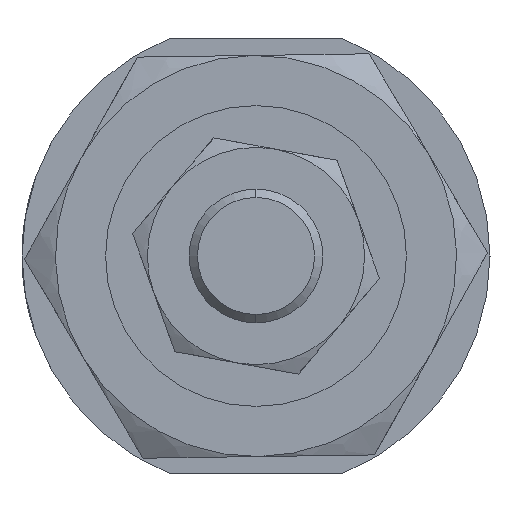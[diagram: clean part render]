
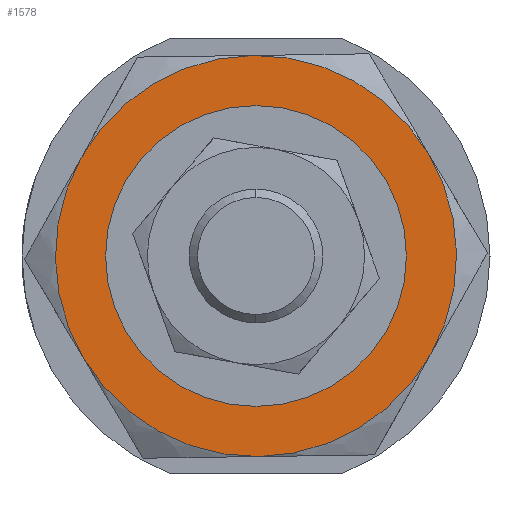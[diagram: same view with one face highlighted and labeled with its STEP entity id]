
A CAD part, left-side view. The second image highlights one B-rep face of the part: STEP entity #1578.
In plain terms, the highlighted planar face has unit normal (-1, 0, 0) as drawn and (0, 0, -1) by its records, which use the part's own axes.
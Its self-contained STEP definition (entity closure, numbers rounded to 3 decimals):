
#10 = FACE_OUTER_BOUND ( 'NONE', #3237, .T. ) ;
#37 = ORIENTED_EDGE ( 'NONE', *, *, #2708, .F. ) ;
#50 = DIRECTION ( 'NONE',  ( 1., 0., 0. ) ) ;
#131 = EDGE_CURVE ( 'NONE', #419, #2693, #2277, .T. ) ;
#152 = CARTESIAN_POINT ( 'NONE',  ( 0., 0., -4. ) ) ;
#200 = DIRECTION ( 'NONE',  ( 1., 0., 0. ) ) ;
#224 = EDGE_CURVE ( 'NONE', #1612, #716, #2878, .T. ) ;
#243 = CARTESIAN_POINT ( 'NONE',  ( 0., 0., -4. ) ) ;
#299 = EDGE_CURVE ( 'NONE', #1617, #2900, #1297, .T. ) ;
#334 = ORIENTED_EDGE ( 'NONE', *, *, #224, .T. ) ;
#335 = AXIS2_PLACEMENT_3D ( 'NONE', #494, #3038, #1633 ) ;
#419 = VERTEX_POINT ( 'NONE', #3204 ) ;
#494 = CARTESIAN_POINT ( 'NONE',  ( 0., 0., -4. ) ) ;
#574 = CIRCLE ( 'NONE', #1946, 12. ) ;
#578 = DIRECTION ( 'NONE',  ( 1., 0., 0. ) ) ;
#586 = CARTESIAN_POINT ( 'NONE',  ( -6., -10.392, -4. ) ) ;
#640 = ORIENTED_EDGE ( 'NONE', *, *, #2020, .F. ) ;
#680 = DIRECTION ( 'NONE',  ( 1., 0., 0. ) ) ;
#716 = VERTEX_POINT ( 'NONE', #1319 ) ;
#735 = DIRECTION ( 'NONE',  ( 1., 0., 0. ) ) ;
#810 = VERTEX_POINT ( 'NONE', #3067 ) ;
#816 = AXIS2_PLACEMENT_3D ( 'NONE', #2617, #1189, #3047 ) ;
#893 = CIRCLE ( 'NONE', #2601, 8.25 ) ;
#927 = CIRCLE ( 'NONE', #335, 12. ) ;
#976 = ORIENTED_EDGE ( 'NONE', *, *, #2985, .F. ) ;
#1171 = EDGE_LOOP ( 'NONE', ( #334, #2130 ) ) ;
#1189 = DIRECTION ( 'NONE',  ( 0., 0., 1. ) ) ;
#1200 = DIRECTION ( 'NONE',  ( 1., 0., 0. ) ) ;
#1202 = DIRECTION ( 'NONE',  ( 0., 0., 1. ) ) ;
#1297 = CIRCLE ( 'NONE', #2488, 12. ) ;
#1313 = CARTESIAN_POINT ( 'NONE',  ( 0., 0., -4. ) ) ;
#1319 = CARTESIAN_POINT ( 'NONE',  ( -8.25, 0., -4. ) ) ;
#1332 = CARTESIAN_POINT ( 'NONE',  ( -12., 0., -4. ) ) ;
#1350 = CARTESIAN_POINT ( 'NONE',  ( 12., 0., -4. ) ) ;
#1390 = DIRECTION ( 'NONE',  ( 0., 0., 1. ) ) ;
#1427 = CIRCLE ( 'NONE', #816, 12. ) ;
#1446 = EDGE_CURVE ( 'NONE', #2900, #810, #574, .T. ) ;
#1496 = PLANE ( 'NONE',  #2934 ) ;
#1547 = FACE_BOUND ( 'NONE', #1171, .T. ) ;
#1578 = ADVANCED_FACE ( 'NONE', ( #1547, #10 ), #1496, .F. ) ;
#1612 = VERTEX_POINT ( 'NONE', #2524 ) ;
#1617 = VERTEX_POINT ( 'NONE', #1332 ) ;
#1633 = DIRECTION ( 'NONE',  ( 1., 0., 0. ) ) ;
#1656 = CARTESIAN_POINT ( 'NONE',  ( 0., 0., -4. ) ) ;
#1678 = CIRCLE ( 'NONE', #1989, 12. ) ;
#1753 = CARTESIAN_POINT ( 'NONE',  ( 0., 0., -4. ) ) ;
#1911 = CARTESIAN_POINT ( 'NONE',  ( 0., 0., -4. ) ) ;
#1916 = AXIS2_PLACEMENT_3D ( 'NONE', #243, #2041, #50 ) ;
#1946 = AXIS2_PLACEMENT_3D ( 'NONE', #1313, #2850, #680 ) ;
#1989 = AXIS2_PLACEMENT_3D ( 'NONE', #152, #2104, #1200 ) ;
#1992 = DIRECTION ( 'NONE',  ( 0., 0., 1. ) ) ;
#2020 = EDGE_CURVE ( 'NONE', #2670, #419, #927, .T. ) ;
#2041 = DIRECTION ( 'NONE',  ( 0., 0., 1. ) ) ;
#2104 = DIRECTION ( 'NONE',  ( 0., 0., 1. ) ) ;
#2130 = ORIENTED_EDGE ( 'NONE', *, *, #3116, .T. ) ;
#2194 = CARTESIAN_POINT ( 'NONE',  ( 0., 0., -4. ) ) ;
#2277 = CIRCLE ( 'NONE', #1916, 12. ) ;
#2488 = AXIS2_PLACEMENT_3D ( 'NONE', #2194, #1202, #2509 ) ;
#2509 = DIRECTION ( 'NONE',  ( 1., 0., 0. ) ) ;
#2524 = CARTESIAN_POINT ( 'NONE',  ( 8.25, 0., -4. ) ) ;
#2601 = AXIS2_PLACEMENT_3D ( 'NONE', #1753, #1992, #578 ) ;
#2613 = CARTESIAN_POINT ( 'NONE',  ( -6., 10.392, -4. ) ) ;
#2617 = CARTESIAN_POINT ( 'NONE',  ( 0., 0., -4. ) ) ;
#2670 = VERTEX_POINT ( 'NONE', #1350 ) ;
#2693 = VERTEX_POINT ( 'NONE', #2613 ) ;
#2708 = EDGE_CURVE ( 'NONE', #810, #2670, #1427, .T. ) ;
#2741 = DIRECTION ( 'NONE',  ( 0., 0., 1. ) ) ;
#2817 = ORIENTED_EDGE ( 'NONE', *, *, #131, .F. ) ;
#2850 = DIRECTION ( 'NONE',  ( 0., 0., 1. ) ) ;
#2878 = CIRCLE ( 'NONE', #3080, 8.25 ) ;
#2900 = VERTEX_POINT ( 'NONE', #586 ) ;
#2908 = ORIENTED_EDGE ( 'NONE', *, *, #299, .F. ) ;
#2934 = AXIS2_PLACEMENT_3D ( 'NONE', #1911, #1390, #735 ) ;
#2985 = EDGE_CURVE ( 'NONE', #2693, #1617, #1678, .T. ) ;
#3038 = DIRECTION ( 'NONE',  ( 0., 0., 1. ) ) ;
#3047 = DIRECTION ( 'NONE',  ( 1., 0., 0. ) ) ;
#3067 = CARTESIAN_POINT ( 'NONE',  ( 6., -10.392, -4. ) ) ;
#3080 = AXIS2_PLACEMENT_3D ( 'NONE', #1656, #2741, #200 ) ;
#3091 = ORIENTED_EDGE ( 'NONE', *, *, #1446, .F. ) ;
#3116 = EDGE_CURVE ( 'NONE', #716, #1612, #893, .T. ) ;
#3204 = CARTESIAN_POINT ( 'NONE',  ( 6., 10.392, -4. ) ) ;
#3237 = EDGE_LOOP ( 'NONE', ( #640, #37, #3091, #2908, #976, #2817 ) ) ;
